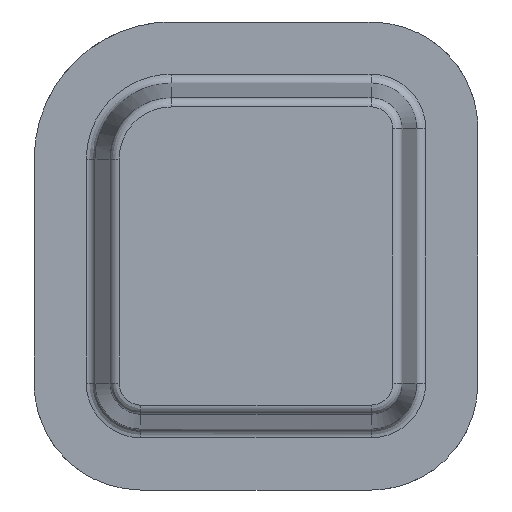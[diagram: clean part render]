
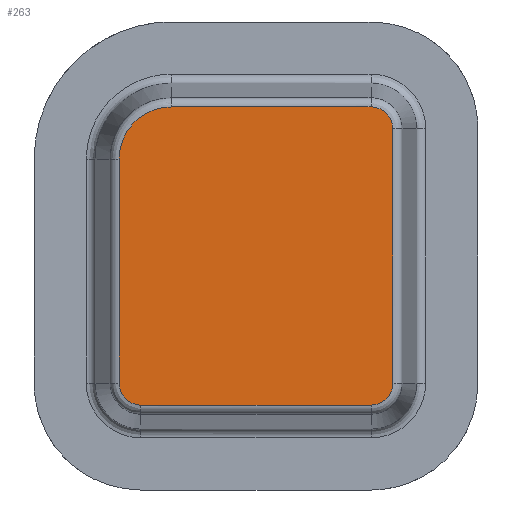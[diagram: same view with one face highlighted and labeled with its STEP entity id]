
A CAD part, front view. The second image highlights one B-rep face of the part: STEP entity #263.
In plain terms, the highlighted planar face has unit normal (0, -1, 0).
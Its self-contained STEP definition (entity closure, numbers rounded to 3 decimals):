
#144=CARTESIAN_POINT('Axis2P3D Location',(49.08,0.,50.92)) ;
#149=CARTESIAN_POINT('Line Origine',(2.749,0.,47.)) ;
#153=CARTESIAN_POINT('Vertex',(2.749,0.,84.)) ;
#155=CARTESIAN_POINT('Vertex',(2.749,0.,10.)) ;
#159=CARTESIAN_POINT('Control Point',(2.749,0.,10.)) ;
#160=CARTESIAN_POINT('Control Point',(2.749,0.,9.038)) ;
#161=CARTESIAN_POINT('Control Point',(2.908,0.,8.077)) ;
#162=CARTESIAN_POINT('Control Point',(3.227,0.,7.152)) ;
#163=CARTESIAN_POINT('Control Point',(4.158,0.,5.442)) ;
#164=CARTESIAN_POINT('Control Point',(5.59,0.,4.123)) ;
#165=CARTESIAN_POINT('Control Point',(6.41,0.,3.589)) ;
#166=CARTESIAN_POINT('Control Point',(7.601,0.,3.071)) ;
#167=CARTESIAN_POINT('Control Point',(8.862,0.,2.828)) ;
#168=CARTESIAN_POINT('Control Point',(9.181,0.,2.785)) ;
#169=CARTESIAN_POINT('Control Point',(9.537,0.,2.756)) ;
#170=CARTESIAN_POINT('Control Point',(9.893,0.,2.75)) ;
#171=CARTESIAN_POINT('Control Point',(9.929,0.,2.749)) ;
#172=CARTESIAN_POINT('Control Point',(9.964,0.,2.749)) ;
#173=CARTESIAN_POINT('Control Point',(10.,0.,2.749)) ;
#174=CARTESIAN_POINT('Vertex',(10.,0.,2.749)) ;
#177=CARTESIAN_POINT('Line Origine',(48.,0.,2.749)) ;
#181=CARTESIAN_POINT('Vertex',(86.,0.,2.749)) ;
#185=CARTESIAN_POINT('Control Point',(86.,0.,2.749)) ;
#186=CARTESIAN_POINT('Control Point',(86.962,0.,2.749)) ;
#187=CARTESIAN_POINT('Control Point',(87.923,0.,2.908)) ;
#188=CARTESIAN_POINT('Control Point',(88.848,0.,3.227)) ;
#189=CARTESIAN_POINT('Control Point',(90.558,0.,4.158)) ;
#190=CARTESIAN_POINT('Control Point',(91.877,0.,5.59)) ;
#191=CARTESIAN_POINT('Control Point',(92.411,0.,6.41)) ;
#192=CARTESIAN_POINT('Control Point',(92.929,0.,7.601)) ;
#193=CARTESIAN_POINT('Control Point',(93.172,0.,8.862)) ;
#194=CARTESIAN_POINT('Control Point',(93.215,0.,9.181)) ;
#195=CARTESIAN_POINT('Control Point',(93.244,0.,9.537)) ;
#196=CARTESIAN_POINT('Control Point',(93.25,0.,9.893)) ;
#197=CARTESIAN_POINT('Control Point',(93.251,0.,9.929)) ;
#198=CARTESIAN_POINT('Control Point',(93.251,0.,9.964)) ;
#199=CARTESIAN_POINT('Control Point',(93.251,0.,10.)) ;
#200=CARTESIAN_POINT('Vertex',(93.251,0.,10.)) ;
#203=CARTESIAN_POINT('Line Origine',(93.251,0.,52.)) ;
#207=CARTESIAN_POINT('Vertex',(93.251,0.,94.)) ;
#211=CARTESIAN_POINT('Control Point',(93.251,0.,94.)) ;
#212=CARTESIAN_POINT('Control Point',(93.251,0.,94.962)) ;
#213=CARTESIAN_POINT('Control Point',(93.092,0.,95.923)) ;
#214=CARTESIAN_POINT('Control Point',(92.773,0.,96.848)) ;
#215=CARTESIAN_POINT('Control Point',(91.842,0.,98.558)) ;
#216=CARTESIAN_POINT('Control Point',(90.41,0.,99.877)) ;
#217=CARTESIAN_POINT('Control Point',(89.59,0.,100.411)) ;
#218=CARTESIAN_POINT('Control Point',(88.399,0.,100.929)) ;
#219=CARTESIAN_POINT('Control Point',(87.138,0.,101.172)) ;
#220=CARTESIAN_POINT('Control Point',(86.819,0.,101.215)) ;
#221=CARTESIAN_POINT('Control Point',(86.463,0.,101.244)) ;
#222=CARTESIAN_POINT('Control Point',(86.107,0.,101.25)) ;
#223=CARTESIAN_POINT('Control Point',(86.071,0.,101.251)) ;
#224=CARTESIAN_POINT('Control Point',(86.036,0.,101.251)) ;
#225=CARTESIAN_POINT('Control Point',(86.,0.,101.251)) ;
#226=CARTESIAN_POINT('Vertex',(86.,0.,101.251)) ;
#229=CARTESIAN_POINT('Line Origine',(53.,0.,101.251)) ;
#233=CARTESIAN_POINT('Vertex',(20.,0.,101.251)) ;
#237=CARTESIAN_POINT('Control Point',(20.,0.,101.251)) ;
#238=CARTESIAN_POINT('Control Point',(18.077,0.,101.251)) ;
#239=CARTESIAN_POINT('Control Point',(16.153,0.,100.983)) ;
#240=CARTESIAN_POINT('Control Point',(14.282,0.,100.447)) ;
#241=CARTESIAN_POINT('Control Point',(10.736,0.,98.869)) ;
#242=CARTESIAN_POINT('Control Point',(7.757,0.,96.382)) ;
#243=CARTESIAN_POINT('Control Point',(6.451,0.,94.937)) ;
#244=CARTESIAN_POINT('Control Point',(4.493,0.,92.044)) ;
#245=CARTESIAN_POINT('Control Point',(3.313,0.,88.767)) ;
#246=CARTESIAN_POINT('Control Point',(2.954,0.,87.257)) ;
#247=CARTESIAN_POINT('Control Point',(2.762,0.,85.684)) ;
#248=CARTESIAN_POINT('Control Point',(2.749,0.,84.108)) ;
#249=CARTESIAN_POINT('Control Point',(2.749,0.,84.072)) ;
#250=CARTESIAN_POINT('Control Point',(2.749,0.,84.036)) ;
#251=CARTESIAN_POINT('Control Point',(2.749,0.,84.)) ;
#145=DIRECTION('Axis2P3D Direction',(0.,-1.,0.)) ;
#146=DIRECTION('Axis2P3D XDirection',(0.301,0.,0.954)) ;
#150=DIRECTION('Vector Direction',(0.,0.,1.)) ;
#178=DIRECTION('Vector Direction',(1.,0.,0.)) ;
#204=DIRECTION('Vector Direction',(0.,0.,1.)) ;
#230=DIRECTION('Vector Direction',(-1.,0.,0.)) ;
#147=AXIS2_PLACEMENT_3D('Plane Axis2P3D',#144,#145,#146) ;
#254=ORIENTED_EDGE('',*,*,#157,.T.) ;
#255=ORIENTED_EDGE('',*,*,#176,.T.) ;
#256=ORIENTED_EDGE('',*,*,#183,.T.) ;
#257=ORIENTED_EDGE('',*,*,#202,.T.) ;
#258=ORIENTED_EDGE('',*,*,#209,.T.) ;
#259=ORIENTED_EDGE('',*,*,#228,.T.) ;
#260=ORIENTED_EDGE('',*,*,#235,.T.) ;
#261=ORIENTED_EDGE('',*,*,#252,.T.) ;
#151=VECTOR('Line Direction',#150,1.) ;
#179=VECTOR('Line Direction',#178,1.) ;
#205=VECTOR('Line Direction',#204,1.) ;
#231=VECTOR('Line Direction',#230,1.) ;
#263=ADVANCED_FACE('base',(#262),#148,.T.) ;
#158=B_SPLINE_CURVE_WITH_KNOTS('',5,(#159,#160,#161,#162,#163,#164,#165,#166,#167,#168,#169,#170,#171,#172,#173),.UNSPECIFIED.,.F.,.U.,(6,3,3,3,6),(25.647,35.48,45.318,48.597,48.962),.UNSPECIFIED.) ;
#184=B_SPLINE_CURVE_WITH_KNOTS('',5,(#185,#186,#187,#188,#189,#190,#191,#192,#193,#194,#195,#196,#197,#198,#199),.UNSPECIFIED.,.F.,.U.,(6,3,3,3,6),(25.647,35.479,45.318,48.596,48.961),.UNSPECIFIED.) ;
#210=B_SPLINE_CURVE_WITH_KNOTS('',5,(#211,#212,#213,#214,#215,#216,#217,#218,#219,#220,#221,#222,#223,#224,#225),.UNSPECIFIED.,.F.,.U.,(6,3,3,3,6),(25.647,35.48,45.318,48.597,48.962),.UNSPECIFIED.) ;
#236=B_SPLINE_CURVE_WITH_KNOTS('',5,(#237,#238,#239,#240,#241,#242,#243,#244,#245,#246,#247,#248,#249,#250,#251),.UNSPECIFIED.,.F.,.U.,(6,3,3,3,6),(37.649,53.592,69.555,82.316,82.615),.UNSPECIFIED.) ;
#157=EDGE_CURVE('',#154,#156,#152,.F.) ;
#176=EDGE_CURVE('',#156,#175,#158,.T.) ;
#183=EDGE_CURVE('',#175,#182,#180,.T.) ;
#202=EDGE_CURVE('',#182,#201,#184,.T.) ;
#209=EDGE_CURVE('',#201,#208,#206,.T.) ;
#228=EDGE_CURVE('',#208,#227,#210,.T.) ;
#235=EDGE_CURVE('',#227,#234,#232,.T.) ;
#252=EDGE_CURVE('',#234,#154,#236,.T.) ;
#253=EDGE_LOOP('',(#254,#255,#256,#257,#258,#259,#260,#261)) ;
#262=FACE_OUTER_BOUND('',#253,.T.) ;
#152=LINE('Line',#149,#151) ;
#180=LINE('Line',#177,#179) ;
#206=LINE('Line',#203,#205) ;
#232=LINE('Line',#229,#231) ;
#148=PLANE('',#147) ;
#154=VERTEX_POINT('',#153) ;
#156=VERTEX_POINT('',#155) ;
#175=VERTEX_POINT('',#174) ;
#182=VERTEX_POINT('',#181) ;
#201=VERTEX_POINT('',#200) ;
#208=VERTEX_POINT('',#207) ;
#227=VERTEX_POINT('',#226) ;
#234=VERTEX_POINT('',#233) ;
